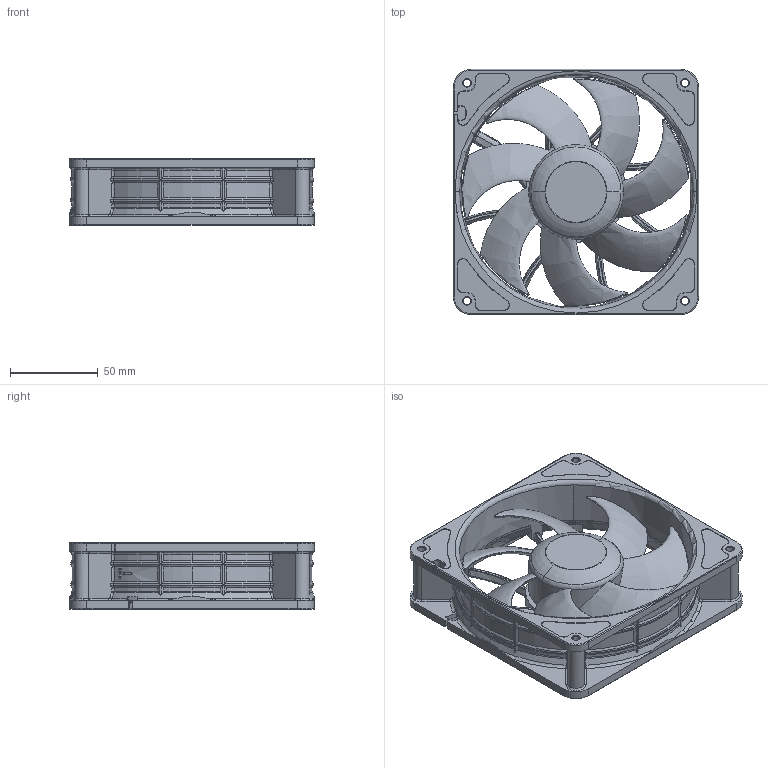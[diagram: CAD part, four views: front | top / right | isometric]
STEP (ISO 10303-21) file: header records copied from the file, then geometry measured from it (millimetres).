
FILE_DESCRIPTION (( 'STEP AP214' ), '1' );
FILE_NAME ('140x38RA_ribbed.STEP', '2022-09-29T06:41:10', ( '' ), ( '' ), 'SwSTEP 2.0', 'SolidWorks 2019', '' );
FILE_SCHEMA (( 'AUTOMOTIVE_DESIGN' ));
Length unit declared in the file: millimetre
Products named in the file (1): 140x38RA_ribbed
Bounding box: 140 x 140 x 38 mm (x, y, z)
Volume: 206455 mm3; surface area: 91842.7 mm2
Topology: 1 solids, 1 shells, 1237 faces, 3306 edges, 2050 vertices
Faces by surface type: bspline 449, cylinder 283, torus 210, plane 203, cone 89, sphere 3
Entity records: 100344 total; most frequent: CARTESIAN_POINT 73684, ORIENTED_EDGE 6572, DIRECTION 4408, EDGE_CURVE 3286, VERTEX_POINT 2050, AXIS2_PLACEMENT_3D 1901, B_SPLINE_CURVE_WITH_KNOTS 1476, EDGE_LOOP 1262
